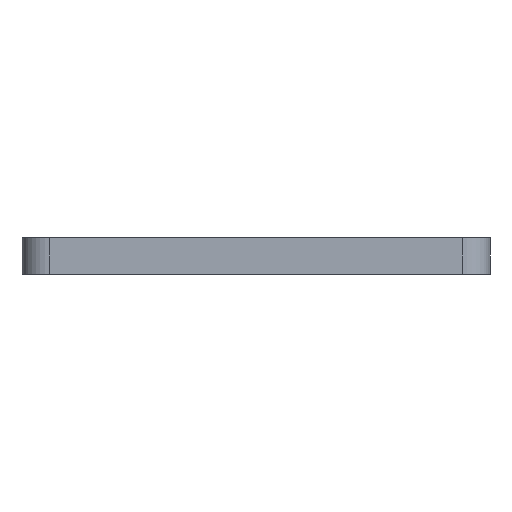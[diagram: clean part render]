
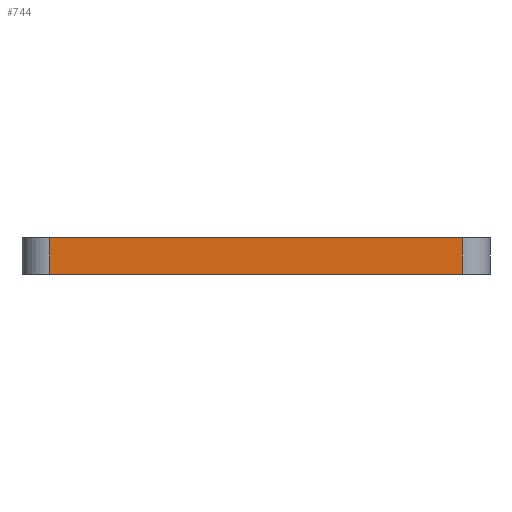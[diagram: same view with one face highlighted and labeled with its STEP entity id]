
A CAD part, front view. The second image highlights one B-rep face of the part: STEP entity #744.
In plain terms, the highlighted planar face has unit normal (0, -1, 0).
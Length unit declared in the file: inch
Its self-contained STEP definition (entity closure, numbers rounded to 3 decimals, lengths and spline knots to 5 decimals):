
#63=PLANE('',#847);
#98=FACE_OUTER_BOUND('',#154,.T.);
#154=EDGE_LOOP('',(#647,#648,#649,#650));
#180=LINE('',#1098,#225);
#185=LINE('',#1110,#230);
#191=LINE('',#1169,#236);
#221=LINE('',#1273,#266);
#225=VECTOR('',#876,0.3937);
#230=VECTOR('',#887,0.3937);
#236=VECTOR('',#943,0.3937);
#266=VECTOR('',#1071,0.3937);
#328=VERTEX_POINT('',#1095);
#329=VERTEX_POINT('',#1097);
#333=VERTEX_POINT('',#1109);
#360=VERTEX_POINT('',#1165);
#397=EDGE_CURVE('',#328,#329,#180,.T.);
#403=EDGE_CURVE('',#329,#333,#185,.T.);
#433=EDGE_CURVE('',#333,#360,#191,.T.);
#485=EDGE_CURVE('',#328,#360,#221,.T.);
#647=ORIENTED_EDGE('',*,*,#397,.F.);
#648=ORIENTED_EDGE('',*,*,#485,.T.);
#649=ORIENTED_EDGE('',*,*,#433,.F.);
#650=ORIENTED_EDGE('',*,*,#403,.F.);
#744=ADVANCED_FACE('',(#98),#63,.T.);
#847=AXIS2_PLACEMENT_3D('',#1272,#1069,#1070);
#876=DIRECTION('',(0.,0.,-1.));
#887=DIRECTION('',(-1.,0.,0.));
#943=DIRECTION('',(0.,0.,1.));
#1069=DIRECTION('center_axis',(0.,-1.,0.));
#1070=DIRECTION('ref_axis',(0.,0.,-1.));
#1071=DIRECTION('',(-1.,0.,0.));
#1095=CARTESIAN_POINT('',(4.88189,-1.,0.15748));
#1097=CARTESIAN_POINT('',(4.88189,-1.,0.));
#1098=CARTESIAN_POINT('',(4.88189,-1.,0.));
#1109=CARTESIAN_POINT('',(3.11811,-1.,0.));
#1110=CARTESIAN_POINT('',(5.,-1.,0.));
#1165=CARTESIAN_POINT('',(3.11811,-1.,0.15748));
#1169=CARTESIAN_POINT('',(3.11811,-1.,0.));
#1272=CARTESIAN_POINT('Origin',(5.,-1.,0.));
#1273=CARTESIAN_POINT('',(5.,-1.,0.15748));
